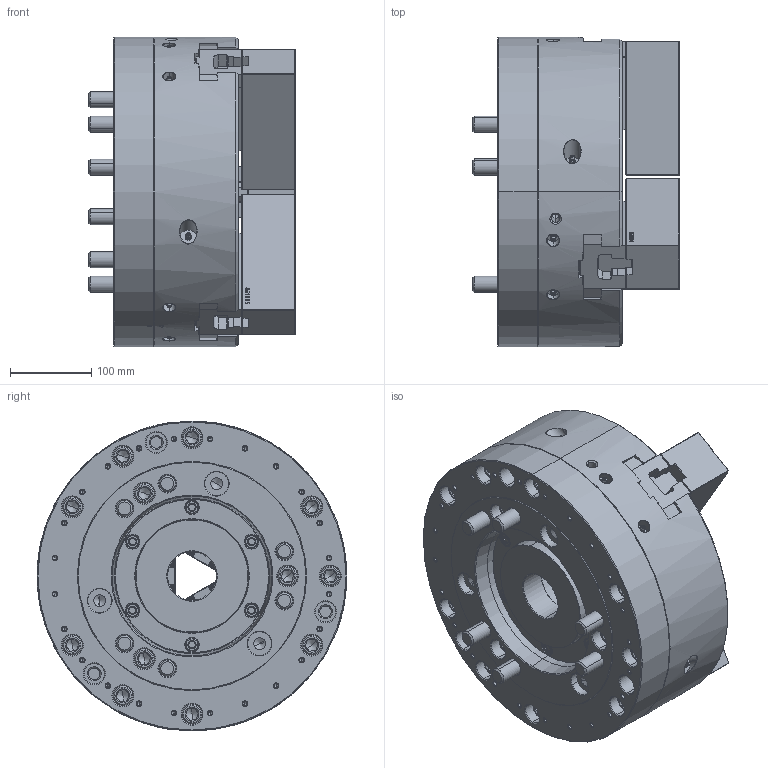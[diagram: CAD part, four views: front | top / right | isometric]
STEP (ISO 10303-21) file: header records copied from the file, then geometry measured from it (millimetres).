
FILE_DESCRIPTION (( 'STEP AP214' ), '1' );
FILE_NAME ('DT1_HOH-15K_OUTSIDE_VIEW_OC.STEP', '2025-12-07T23:24:55', ( '' ), ( '' ), 'SwSTEP 2.0', 'SolidWorks 2022', '' );
FILE_SCHEMA (( 'AUTOMOTIVE_DESIGN' ));
Length unit declared in the file: millimetre
Products named in the file (9): DT1_HOH-15K_OUTSIDE_VIEW_OC; DT1_HOH-15K_M20x160^DT1_HOH-15K; DT1_HOH-15K_M6x20^DT1_HOH-15K; DT1_HOH-15K_COVER^DT1_HOH-15K; DT1_HOH-15K_M20x55^DT1_HOH-15K; DT1_HOH-15K_SOFTJAW^DT1_HOH-15K; DT1_HOH-15K_DRAWNUT^DT1_HOH-15K; DT1_HOH-15K_BASE^DT1_HOH-15K; DT1_HOH-15K_TNUT^DT1_HOH-15K
Assembly tree (27 placements, depth 2):
  DT1_HOH-15K_OUTSIDE_VIEW_OC
    DT1_HOH-15K_SOFTJAW^DT1_HOH-15K  x3
    DT1_HOH-15K_TNUT^DT1_HOH-15K  x3
    DT1_HOH-15K_DRAWNUT^DT1_HOH-15K
    DT1_HOH-15K_COVER^DT1_HOH-15K
    DT1_HOH-15K_BASE^DT1_HOH-15K
    DT1_HOH-15K_M6x20^DT1_HOH-15K  x6
    DT1_HOH-15K_M20x55^DT1_HOH-15K  x6
    DT1_HOH-15K_M20x160^DT1_HOH-15K  x6
Bounding box: 254 x 381 x 381 mm (x, y, z)
Volume: 17095000.5 mm3; surface area: 1224693.9 mm2
Topology: 27 solids, 33 shells, 8003 faces, 22630 edges, 14808 vertices
Faces by surface type: plane 4631, cylinder 2268, cone 688, bspline 317, torus 81, sphere 18
Entity records: 188659 total; most frequent: CARTESIAN_POINT 63728, ORIENTED_EDGE 28284, DIRECTION 22584, EDGE_CURVE 14142, VECTOR 9774, LINE 9774, VERTEX_POINT 9259, AXIS2_PLACEMENT_3D 6405
